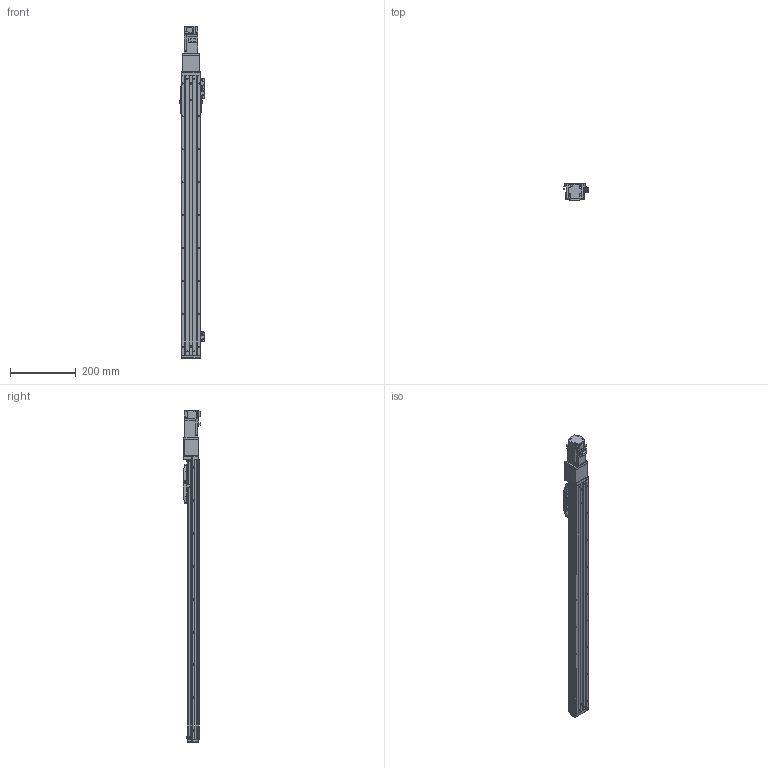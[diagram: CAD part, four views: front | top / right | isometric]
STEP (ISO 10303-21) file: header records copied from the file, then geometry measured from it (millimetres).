
FILE_DESCRIPTION (( 'STEP AP203' ), '1' );
FILE_NAME ('CTHA50-700-BC-M10-C4L.step', '2022-03-19T05:57:30', ( '微软用户' ), ( '微软中国' ), 'SwSTEP 2.0', 'SolidWorks 2020', '' );
FILE_SCHEMA (( 'CONFIG_CONTROL_DESIGN' ));
Length unit declared in the file: millimetre
Products named in the file (20): GBT 70.1-M3℅6; CTHA50-013; KTHA50-001_850; CTHA60-017; HG-KR13（三菱）; KTHA50-004; GBT 70.1-M4×12; GBT 70.3-M3℅6; KTHA50-005; CTHA60-016; CTHA50-002; GB¨uT 70.2-M3¡Á6_M3¡Á6; CTHA60-021; CTHA50-030; EE_SX911P_R; CTHA50-027; CTHA50-031; GBT77-2000 M3×3; CTHA50-006-2_CTHA60-006-2; CTHA50-700-BC-M10-C4L
Assembly tree (59 placements, depth 2):
  CTHA50-700-BC-M10-C4L
    KTHA50-001_850
    KTHA50-004
    KTHA50-005
    GB¨uT 70.2-M3¡Á6_M3¡Á6  x10
    EE_SX911P_R  x3
    GBT77-2000 M3×3  x6
    GBT 70.1-M3℅6  x6
    CTHA60-017  x3
    GBT 70.1-M4×12  x10
    CTHA60-016  x2
    CTHA60-021  x2
    CTHA50-027
    CTHA50-006-2_CTHA60-006-2
    CTHA50-013
    HG-KR13（三菱）
    GBT 70.3-M3℅6  x6
    CTHA50-002
    CTHA50-030  x2
    CTHA50-031
Bounding box: 74.12 x 53.3 x 1008.6 mm (x, y, z)
Volume: 1598812.9 mm3; surface area: 422238.9 mm2
Topology: 61 solids, 61 shells, 2476 faces, 5906 edges, 3618 vertices
Faces by surface type: plane 1426, cylinder 562, cone 368, torus 96, sphere 24
Entity records: 41282 total; most frequent: CARTESIAN_POINT 6675, DIRECTION 6630, ORIENTED_EDGE 6380, EDGE_CURVE 3190, VECTOR 2330, LINE 2330, AXIS2_PLACEMENT_3D 2150, VERTEX_POINT 2011
